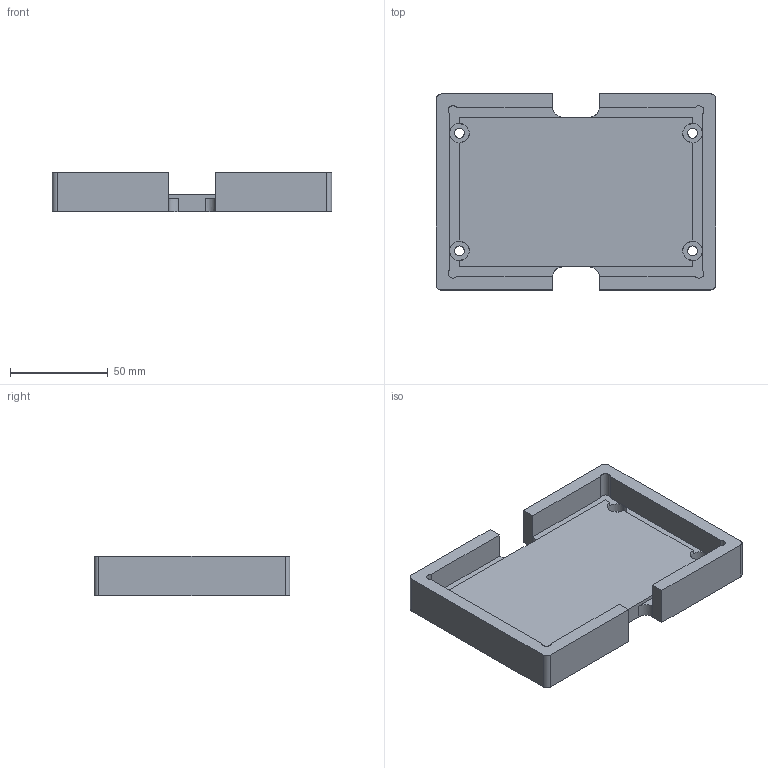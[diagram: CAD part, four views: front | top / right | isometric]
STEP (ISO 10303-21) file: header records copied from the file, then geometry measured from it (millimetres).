
FILE_DESCRIPTION(/* description */ (''),/* implementation_level */ '2;1');
FILE_NAME(/* name */ 'SAMPLE~2',/* time_stamp */ '2023-12-19T21:50:21+01:00',/* author */ (''),/* organization */ (''),/* preprocessor_version */ 'ST-DEVELOPER v16.5',/* originating_system */ '',/* authorisation */ '');
FILE_SCHEMA (('AUTOMOTIVE_DESIGN'));
Length unit declared in the file: millimetre
Products named in the file (1): Document
Bounding box: 142.5 x 100 x 20 mm (x, y, z)
Volume: 144176.1 mm3; surface area: 44115.9 mm2
Topology: 1 solids, 1 shells, 88 faces, 228 edges, 148 vertices
Faces by surface type: plane 46, bspline 42
Entity records: 2671 total; most frequent: CARTESIAN_POINT 1310, ORIENTED_EDGE 456, EDGE_CURVE 228, VERTEX_POINT 148, EDGE_LOOP 102, ADVANCED_FACE 88, FACE_OUTER_BOUND 88, B_SPLINE_CURVE_WITH_KNOTS 86
